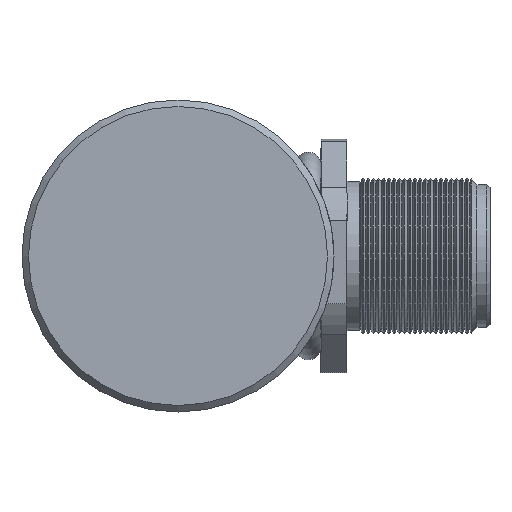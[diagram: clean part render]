
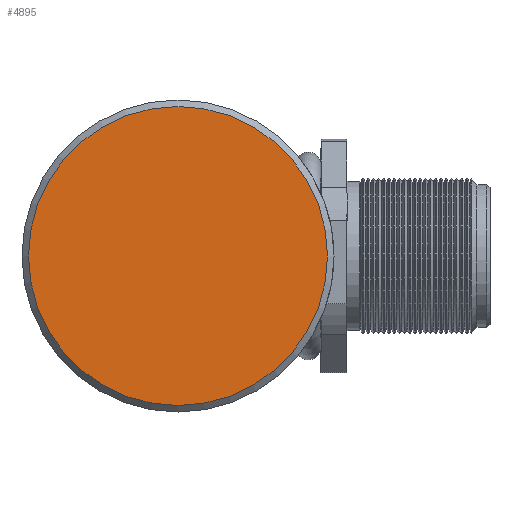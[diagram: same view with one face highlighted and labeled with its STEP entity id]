
A CAD part, left-side view. The second image highlights one B-rep face of the part: STEP entity #4895.
In plain terms, the highlighted planar face has unit normal (-1, 0, 0).
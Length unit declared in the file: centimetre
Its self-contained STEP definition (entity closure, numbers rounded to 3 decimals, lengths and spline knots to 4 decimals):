
#533=PLANE('',#5273);
#1347=VERTEX_POINT('',#7129);
#1721=CIRCLE('',#5272,1.15);
#2074=EDGE_CURVE('',#1347,#1347,#1721,.T.);
#2928=ORIENTED_EDGE('',*,*,#2074,.T.);
#4002=EDGE_LOOP('',(#2928));
#4454=FACE_BOUND('',#4002,.T.);
#4895=ADVANCED_FACE('',(#4454),#533,.F.);
#5272=AXIS2_PLACEMENT_3D('',#7128,#5948,#5949);
#5273=AXIS2_PLACEMENT_3D('',#7130,#5950,$);
#5948=DIRECTION('',(-1.,0.,0.));
#5949=DIRECTION('',(0.,0.,-1.15));
#5950=DIRECTION('',(1.,0.,0.));
#7128=CARTESIAN_POINT('',(-5.02,0.,0.));
#7129=CARTESIAN_POINT('',(-5.02,0.,-1.15));
#7130=CARTESIAN_POINT('',(-5.02,0.,0.));
